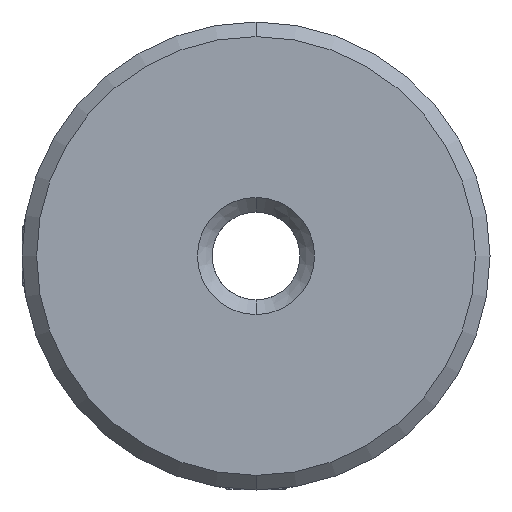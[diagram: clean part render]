
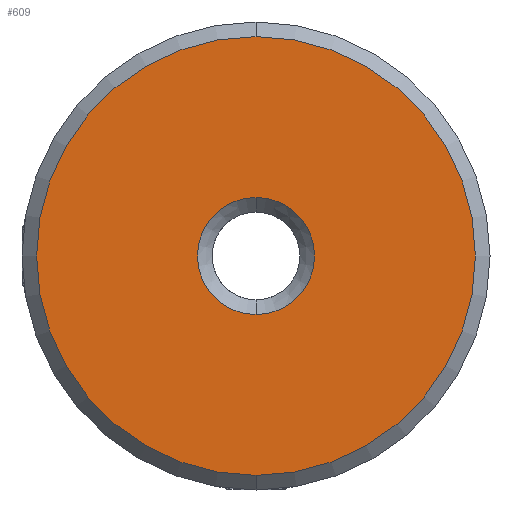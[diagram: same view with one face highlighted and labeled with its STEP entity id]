
A CAD part, front view. The second image highlights one B-rep face of the part: STEP entity #609.
In plain terms, the highlighted planar face has unit normal (0, -1, 0).
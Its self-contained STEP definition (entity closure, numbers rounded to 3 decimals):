
#47 = ORIENTED_EDGE ( 'NONE', *, *, #875, .T. ) ;
#132 = CARTESIAN_POINT ( 'NONE',  ( -10.188, -12.277, 0.046 ) ) ;
#354 = AXIS2_PLACEMENT_3D ( 'NONE', #1164, #2299, #3409 ) ;
#417 = AXIS2_PLACEMENT_3D ( 'NONE', #2351, #3423, #634 ) ;
#419 = DIRECTION ( 'NONE',  ( 0., -1., 0. ) ) ;
#479 = CARTESIAN_POINT ( 'NONE',  ( -10.188, -12.277, 7.546 ) ) ;
#609 = ADVANCED_FACE ( 'NONE', ( #679, #3441 ), #903, .F. ) ;
#633 = ORIENTED_EDGE ( 'NONE', *, *, #2470, .T. ) ;
#634 = DIRECTION ( 'NONE',  ( 0., 0., 1. ) ) ;
#655 = DIRECTION ( 'NONE',  ( 0., 1., 0. ) ) ;
#679 = FACE_OUTER_BOUND ( 'NONE', #2650, .T. ) ;
#840 = EDGE_CURVE ( 'NONE', #2694, #3566, #2790, .T. ) ;
#875 = EDGE_CURVE ( 'NONE', #1973, #1225, #2855, .T. ) ;
#903 = PLANE ( 'NONE',  #2933 ) ;
#922 = CARTESIAN_POINT ( 'NONE',  ( -10.188, -12.277, 0.046 ) ) ;
#923 = CARTESIAN_POINT ( 'NONE',  ( -10.188, -12.277, 0.046 ) ) ;
#1164 = CARTESIAN_POINT ( 'NONE',  ( -10.188, -12.277, 0.046 ) ) ;
#1225 = VERTEX_POINT ( 'NONE', #3466 ) ;
#1234 = DIRECTION ( 'NONE',  ( 0., 0., 1. ) ) ;
#1291 = AXIS2_PLACEMENT_3D ( 'NONE', #922, #655, #3162 ) ;
#1452 = ORIENTED_EDGE ( 'NONE', *, *, #840, .T. ) ;
#1552 = DIRECTION ( 'NONE',  ( 0., 0., 1. ) ) ;
#1579 = AXIS2_PLACEMENT_3D ( 'NONE', #132, #419, #1552 ) ;
#1724 = CIRCLE ( 'NONE', #1291, 2. ) ;
#1973 = VERTEX_POINT ( 'NONE', #2805 ) ;
#2299 = DIRECTION ( 'NONE',  ( 0., -1., 0. ) ) ;
#2351 = CARTESIAN_POINT ( 'NONE',  ( -10.188, -12.277, 0.046 ) ) ;
#2470 = EDGE_CURVE ( 'NONE', #1225, #1973, #1724, .T. ) ;
#2500 = CARTESIAN_POINT ( 'NONE',  ( -10.188, -12.277, -7.454 ) ) ;
#2650 = EDGE_LOOP ( 'NONE', ( #3212, #1452 ) ) ;
#2694 = VERTEX_POINT ( 'NONE', #2500 ) ;
#2785 = EDGE_LOOP ( 'NONE', ( #633, #47 ) ) ;
#2790 = CIRCLE ( 'NONE', #354, 7.5 ) ;
#2805 = CARTESIAN_POINT ( 'NONE',  ( -10.188, -12.277, 2.046 ) ) ;
#2855 = CIRCLE ( 'NONE', #417, 2. ) ;
#2933 = AXIS2_PLACEMENT_3D ( 'NONE', #923, #3146, #1234 ) ;
#3146 = DIRECTION ( 'NONE',  ( 0., 1., 0. ) ) ;
#3162 = DIRECTION ( 'NONE',  ( 0., 0., 1. ) ) ;
#3212 = ORIENTED_EDGE ( 'NONE', *, *, #3375, .T. ) ;
#3375 = EDGE_CURVE ( 'NONE', #3566, #2694, #3391, .T. ) ;
#3391 = CIRCLE ( 'NONE', #1579, 7.5 ) ;
#3409 = DIRECTION ( 'NONE',  ( 0., 0., 1. ) ) ;
#3423 = DIRECTION ( 'NONE',  ( 0., 1., 0. ) ) ;
#3441 = FACE_BOUND ( 'NONE', #2785, .T. ) ;
#3466 = CARTESIAN_POINT ( 'NONE',  ( -10.188, -12.277, -1.954 ) ) ;
#3566 = VERTEX_POINT ( 'NONE', #479 ) ;
